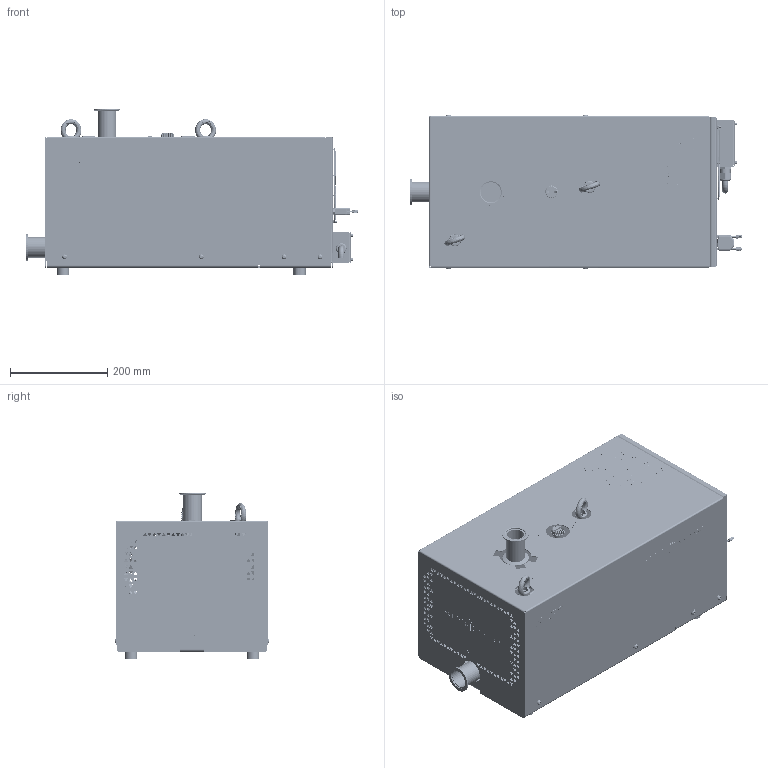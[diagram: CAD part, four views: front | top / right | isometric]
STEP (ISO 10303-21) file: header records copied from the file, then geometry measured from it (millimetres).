
FILE_DESCRIPTION((''),'2;1');
FILE_NAME('CREO10000213206_ASM','2022-10-27T14:53:46',('MSACCHET'),(''),'CREO PARAMETRIC BY PTC INC, 2020281','CREO PARAMETRIC BY PTC INC, 2020281','');
FILE_SCHEMA(('CONFIG_CONTROL_DESIGN'));
Products named in the file (77): FACE-AVANT-COMPLETE-DESIGN-ULY_ASM; EQUIP-ULYSSE-SELECTION-DESIGN_ASM; EMBASE-ULYSSE-DESIGN; RIVKLE-HEX-EP3_M6; GOUJON-SERTI-M4X12; EMBASE-DESIGN-ULYSSE_ASM; ETIQUETTE-TERRE-RONDE-D9; EMBASE-DESIGN-ACP90-LIGHT_ASM; FACE-AVANT-EQUIP-DESIGN-ULYSSE; CREO10000224591; CREO10000243603; CREO10000215028_ASM; COLONNETTE-SERT-BOR-M3X8; GOUJON-SERTI-M4X10; FACE-AVANT-SELECTION-DESIGN_ASM; CREO10000243608; PRESSE-ETOUPE-980-03-LEGRAND; CHC-M3X6INOX; FUJI-FRN0008E2S-7GA; RONDELLE_ONDUFLEX-04INOX; CHC-M4X25INOX; ECROU_TWOLOCK-NOMEL-M4; FUJI_ASM; ENTRETOISE_SD6_4-40_4-40; SAN_ACE_DC_172E51_RL_RU; PINCE-FIXATION-REF-PAPST-LZ210; TFH-ST3_5X22; GRILLE-PAPST-LZ24B; CREO10000225703; ETIQUETTE-CONSTRUCTEUR-CE-ACP; CREO10000208067; CREO10000208091; CREO10000225706; CREO10000226216; CREO10000232705; CREO10000234413; CREO10000234415; CREO10000234417; CREO10000234416_ASM; ETIQUETTE-CONFORMITE-UL-ACP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
Assembly tree (144 placements, depth 6):
  CREO10000213206_ASM
    EQUIP-ULYSSE-SELECTION-DESIGN_ASM
      FACE-AVANT-COMPLETE-DESIGN-ULY_ASM
    EQUIP-AMOR-FRN0008E2S_7GA-LIGHT_ASM
      EMBASE-DESIGN-ACP90-LIGHT_ASM
        EMBASE-DESIGN-ULYSSE_ASM
          EMBASE-ULYSSE-DESIGN
          RIVKLE-HEX-EP3_M6  x8
          GOUJON-SERTI-M4X12  x2
        ETIQUETTE-TERRE-RONDE-D9  x2
      FACE-AVANT-FRN0008E2S_7GA-LIGHT_ASM
        FACE-AVANT-SELECTION-DESIGN_ASM
          CREO10000215028_ASM
            FACE-AVANT-EQUIP-DESIGN-ULYSSE
            CREO10000224591
            CREO10000243603
          COLONNETTE-SERT-BOR-M3X8  x17
          GOUJON-SERTI-M4X10  x3
        CREO10000243608
        PRESSE-ETOUPE-980-03-LEGRAND
        CHC-M3X6INOX  x4
        FUJI_ASM
          FUJI-FRN0008E2S-7GA
          RONDELLE_ONDUFLEX-04INOX  x4
          CHC-M4X25INOX  x4
          ECROU_TWOLOCK-NOMEL-M4  x4
        ENTRETOISE_SD6_4-40_4-40  x2
        SAN_ACE_DC_172E51_RL_RU
        PINCE-FIXATION-REF-PAPST-LZ210  x4
        TFH-ST3_5X22  x4
        GRILLE-PAPST-LZ24B
        ETIQUETTE-TERRE-RONDE-D9  x3
        CREO10000225703
        ETIQUETTE-CONSTRUCTEUR-CE-ACP
        CREO10000208067
        CREO10000208091
        ECROU_TWOLOCK-NOMEL-M4  x3
        CREO10000225706
        CREO10000226216
        CREO10000232705
        CREO10000234416_ASM
          CREO10000234413
          CREO10000234415
          CREO10000234417
        ETIQUETTE-CONFORMITE-UL-ACP
      CAPOT-ACP90-SANS-MOUSSES_ASM
        CAPOT-SOLU4-DESIGN
        TRANSFERT_PV_K_180X31  x3
        ETIQUETTE-ACP-ULYSSE  x2
        ETIQ-CAPOT-ULYSSE-EXHAUST
        ETIQ-CAPOT-ULYSSE-INLET
        CREO10000208015
        CREO10000208040
        CREO10000208038
        CREO10000208044
        CREO10000208039
        CREO10000219848  x2
        CREO10000235539
        CREO10000235540
        CREO10000235541
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Bounding box: 683.64 x 319 x 342.71 mm (x, y, z)
Volume: 2961904.5 mm3; surface area: 2355297.3 mm2
Topology: 303 solids, 349 shells, 39498 faces, 108000 edges, 71327 vertices
Faces by surface type: plane 18808, extrusion 16141, cylinder 2423, bspline 1151, cone 552, torus 334, sphere 89
Entity records: 1340688 total; most frequent: CARTESIAN_POINT 482418, ORIENTED_EDGE 199146, DIRECTION 125885, EDGE_CURVE 99573, VECTOR 76099, VERTEX_POINT 66083, LINE 60492, B_SPLINE_CURVE_WITH_KNOTS 49927
